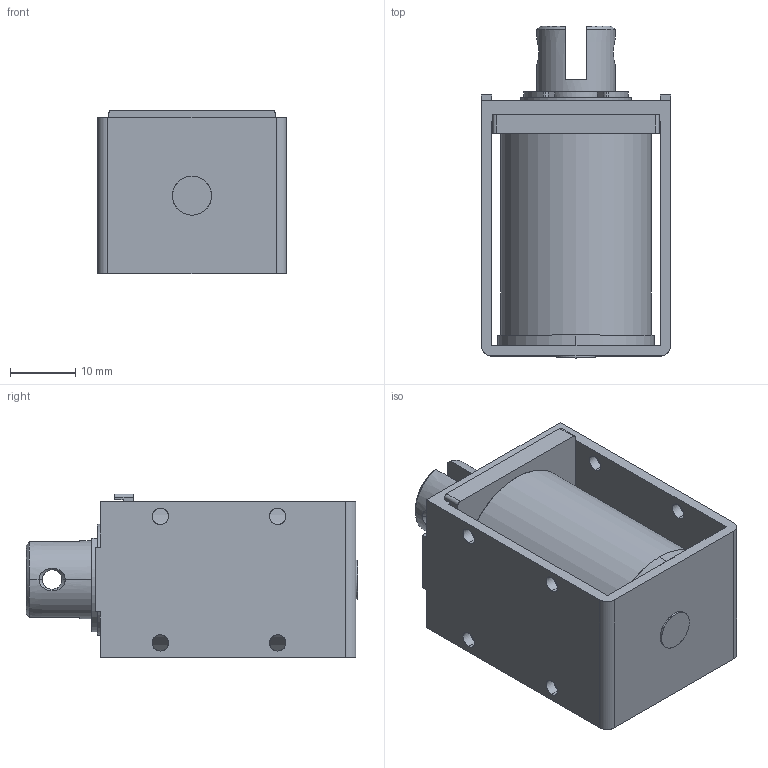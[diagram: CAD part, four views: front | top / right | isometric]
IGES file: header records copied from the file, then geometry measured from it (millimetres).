
Start section: SolidWorks IGES file using analytic representation for surfaces
Global section: file name: L:\カタログ\web用3Dデータ\CA1240\3D_CA1240\w_ca1240.IGS; native system: SolidWorks 2014; preprocessor: SolidWorks 2014; author: jiba; date: 140714.113112; units: millimetre
Bounding box: 29 x 50.87 x 25.1 mm (x, y, z)
Surface area: 16534.9 mm2 (no closed solid volume)
Topology: 0 solids, 0 shells, 135 faces, 2385 edges, 2385 vertices
Faces by surface type: revolution 78, bspline 57
